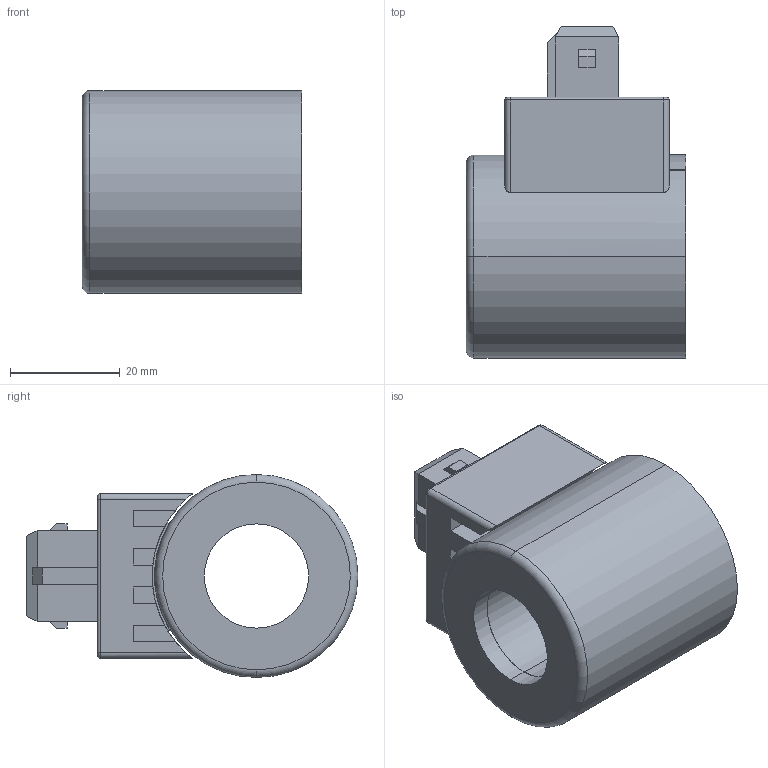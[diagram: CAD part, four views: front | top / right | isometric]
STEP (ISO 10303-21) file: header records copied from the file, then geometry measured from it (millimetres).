
FILE_DESCRIPTION (( 'STEP AP203' ), '1' );
FILE_NAME ('VJE37_19x40.step', '2013-07-25T09:10:28', ( 'Wandfluh AG' ), ( 'Wandfluh AG' ), 'SwSTEP 2.0', 'SolidWorks 2012', '' );
FILE_SCHEMA (( 'CONFIG_CONTROL_DESIGN' ));
Length unit declared in the file: millimetre
Products named in the file (1): VJE37_19x40
Bounding box: 40 x 60.5 x 37 mm (x, y, z)
Surface area: 21045.5 mm2 (no closed solid volume)
Topology: 0 solids, 8 shells, 116 faces, 306 edges, 199 vertices
Faces by surface type: plane 77, cylinder 25, bspline 8, cone 4, torus 2
Entity records: 3829 total; most frequent: CARTESIAN_POINT 923, DIRECTION 584, ORIENTED_EDGE 556, EDGE_CURVE 306, VECTOR 212, LINE 212, VERTEX_POINT 199, AXIS2_PLACEMENT_3D 186
